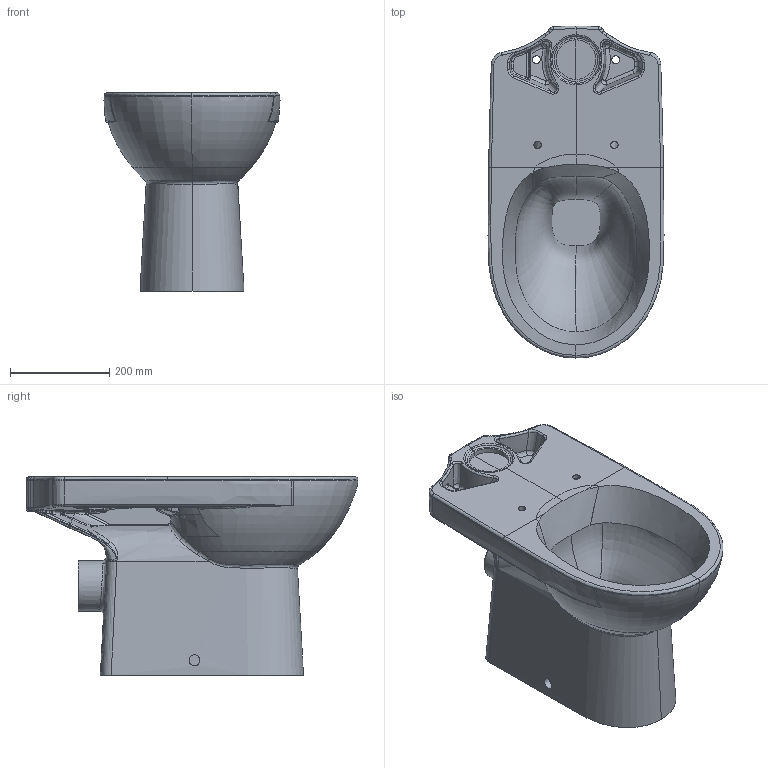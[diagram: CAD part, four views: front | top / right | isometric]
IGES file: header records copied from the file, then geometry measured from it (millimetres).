
Global section: file name: 500285; native system: Autodesk Inventor 2018; preprocessor: unknown; author: JANAN; date: 20200527.083000; units: millimetre
Bounding box: 355.21 x 670 x 400 mm (x, y, z)
Volume: 26660041.2 mm3; surface area: 1150369.3 mm2
Topology: 1 solids, 1 shells, 525 faces, 1246 edges, 721 vertices
Faces by surface type: bspline 525
